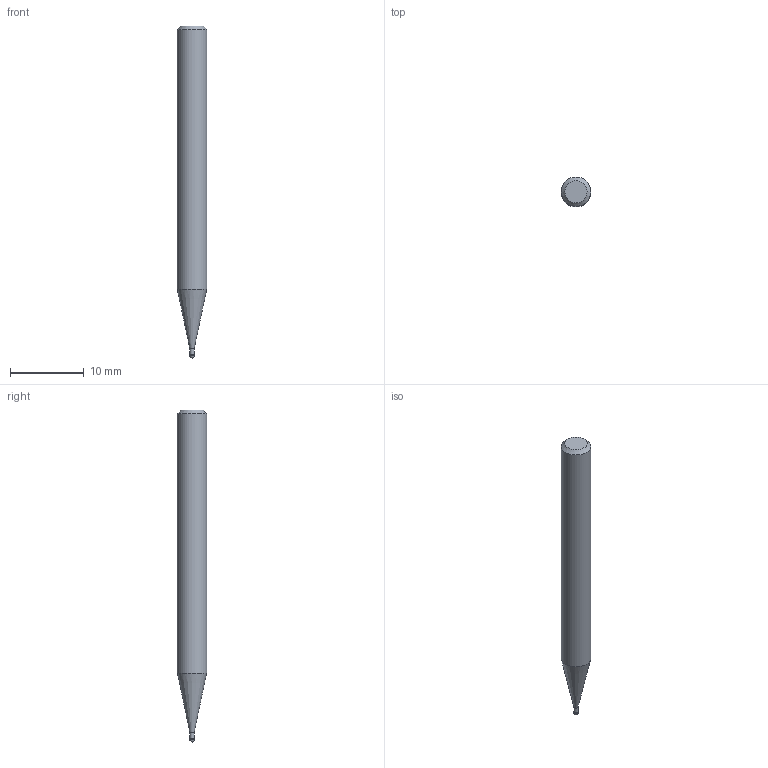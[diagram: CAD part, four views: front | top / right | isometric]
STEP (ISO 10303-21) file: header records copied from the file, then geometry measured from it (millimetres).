
FILE_DESCRIPTION((''),'2;1');
FILE_NAME('C:\Users\nsx150\AppData\Local\Temp\Mastercam 2021\ARV7HD45SN\TEMP.step','2023-06-13T16:33:51',(''),(''),'STEP Write','Mastercam 2021 ... CNC Software, Inc.','');
FILE_SCHEMA(('AUTOMOTIVE_DESIGN'));
Length unit declared in the file: millimetre
Products named in the file (1): None
Bounding box: 4 x 4 x 45 mm (x, y, z)
Volume: 486.3 mm3; surface area: 518.7 mm2
Topology: 2 solids, 2 shells, 9 faces, 14 edges, 8 vertices
Faces by surface type: plane 3, cylinder 3, cone 2, sphere 1
Full cylindrical faces by diameter (mm): 0.56 x1, 0.6 x1, 4 x1
Entity records: 211 total; most frequent: DIRECTION 36, CARTESIAN_POINT 25, AXIS2_PLACEMENT_3D 18, ORIENTED_EDGE 14, EDGE_LOOP 14, STYLED_ITEM 12, ADVANCED_FACE 9, FACE_BOUND 8
